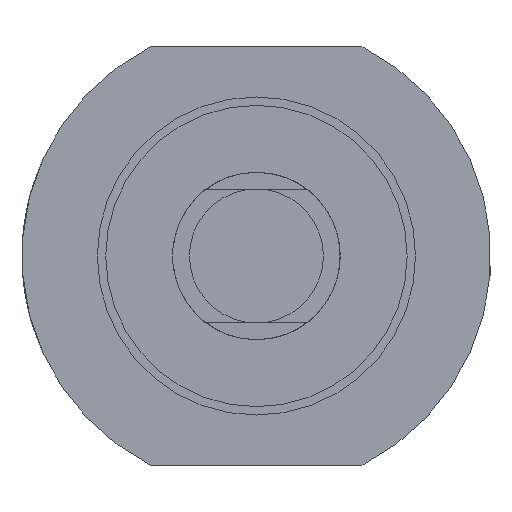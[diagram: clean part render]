
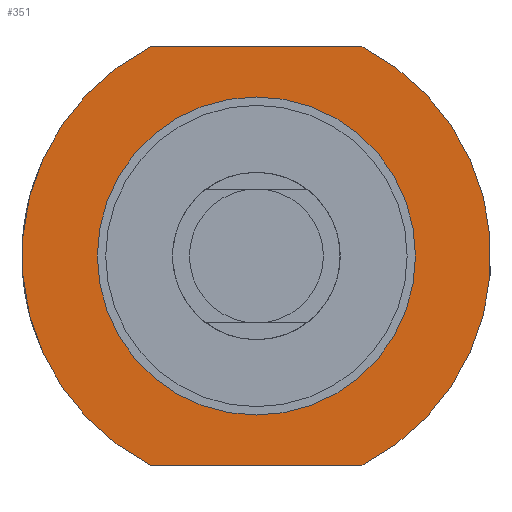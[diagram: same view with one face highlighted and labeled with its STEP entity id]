
A CAD part, left-side view. The second image highlights one B-rep face of the part: STEP entity #351.
In plain terms, the highlighted planar face has unit normal (-1, 0, 0).
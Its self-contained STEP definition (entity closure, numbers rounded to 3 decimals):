
#86 = CARTESIAN_POINT ( 'NONE',  ( 34., -6.305, 12.5 ) ) ;
#111 = AXIS2_PLACEMENT_3D ( 'NONE', #1638, #1112, #993 ) ;
#159 = VERTEX_POINT ( 'NONE', #1644 ) ;
#181 = CARTESIAN_POINT ( 'NONE',  ( 34., 0., -9.5 ) ) ;
#184 = EDGE_CURVE ( 'NONE', #363, #1159, #1427, .T. ) ;
#242 = CIRCLE ( 'NONE', #111, 14. ) ;
#249 = CIRCLE ( 'NONE', #938, 14. ) ;
#351 = ADVANCED_FACE ( 'NONE', ( #413, #537 ), #417, .F. ) ;
#360 = ORIENTED_EDGE ( 'NONE', *, *, #184, .F. ) ;
#363 = VERTEX_POINT ( 'NONE', #511 ) ;
#396 = EDGE_LOOP ( 'NONE', ( #360, #545 ) ) ;
#407 = DIRECTION ( 'NONE',  ( 0., 0., 1. ) ) ;
#413 = FACE_BOUND ( 'NONE', #396, .T. ) ;
#416 = CIRCLE ( 'NONE', #1613, 9.5 ) ;
#417 = PLANE ( 'NONE',  #895 ) ;
#448 = LINE ( 'NONE', #474, #973 ) ;
#474 = CARTESIAN_POINT ( 'NONE',  ( 34., 11.874, -12.5 ) ) ;
#511 = CARTESIAN_POINT ( 'NONE',  ( 34., 0., 9.5 ) ) ;
#517 = VERTEX_POINT ( 'NONE', #1045 ) ;
#537 = FACE_OUTER_BOUND ( 'NONE', #568, .T. ) ;
#545 = ORIENTED_EDGE ( 'NONE', *, *, #1147, .F. ) ;
#564 = CARTESIAN_POINT ( 'NONE',  ( 34., 11.874, 12.5 ) ) ;
#568 = EDGE_LOOP ( 'NONE', ( #1656, #1743, #1310, #1442 ) ) ;
#661 = CARTESIAN_POINT ( 'NONE',  ( 34., 0., 0. ) ) ;
#699 = CARTESIAN_POINT ( 'NONE',  ( 34., 0., -14. ) ) ;
#703 = VERTEX_POINT ( 'NONE', #86 ) ;
#772 = DIRECTION ( 'NONE',  ( -1., 0., 0. ) ) ;
#778 = CARTESIAN_POINT ( 'NONE',  ( 34., 0., 0. ) ) ;
#781 = EDGE_CURVE ( 'NONE', #1085, #517, #242, .T. ) ;
#804 = CARTESIAN_POINT ( 'NONE',  ( 34., 0., 0. ) ) ;
#862 = DIRECTION ( 'NONE',  ( 0., 0., 1. ) ) ;
#895 = AXIS2_PLACEMENT_3D ( 'NONE', #699, #1294, #1437 ) ;
#938 = AXIS2_PLACEMENT_3D ( 'NONE', #804, #772, #407 ) ;
#973 = VECTOR ( 'NONE', #1019, 1000. ) ;
#993 = DIRECTION ( 'NONE',  ( 0., 0., 1. ) ) ;
#1019 = DIRECTION ( 'NONE',  ( 0., 1., 0. ) ) ;
#1045 = CARTESIAN_POINT ( 'NONE',  ( 34., 6.305, -12.5 ) ) ;
#1085 = VERTEX_POINT ( 'NONE', #1393 ) ;
#1112 = DIRECTION ( 'NONE',  ( -1., 0., 0. ) ) ;
#1147 = EDGE_CURVE ( 'NONE', #1159, #363, #416, .T. ) ;
#1159 = VERTEX_POINT ( 'NONE', #181 ) ;
#1216 = AXIS2_PLACEMENT_3D ( 'NONE', #661, #1463, #1617 ) ;
#1236 = DIRECTION ( 'NONE',  ( -1., 0., 0. ) ) ;
#1294 = DIRECTION ( 'NONE',  ( 1., 0., 0. ) ) ;
#1310 = ORIENTED_EDGE ( 'NONE', *, *, #1646, .T. ) ;
#1393 = CARTESIAN_POINT ( 'NONE',  ( 34., 6.305, 12.5 ) ) ;
#1427 = CIRCLE ( 'NONE', #1216, 9.5 ) ;
#1437 = DIRECTION ( 'NONE',  ( 0., 0., -1. ) ) ;
#1440 = EDGE_CURVE ( 'NONE', #159, #517, #448, .T. ) ;
#1442 = ORIENTED_EDGE ( 'NONE', *, *, #1616, .F. ) ;
#1463 = DIRECTION ( 'NONE',  ( -1., 0., 0. ) ) ;
#1471 = LINE ( 'NONE', #564, #1670 ) ;
#1613 = AXIS2_PLACEMENT_3D ( 'NONE', #778, #1236, #862 ) ;
#1616 = EDGE_CURVE ( 'NONE', #1085, #703, #1471, .T. ) ;
#1617 = DIRECTION ( 'NONE',  ( 0., 0., 1. ) ) ;
#1638 = CARTESIAN_POINT ( 'NONE',  ( 34., 0., 0. ) ) ;
#1644 = CARTESIAN_POINT ( 'NONE',  ( 34., -6.305, -12.5 ) ) ;
#1646 = EDGE_CURVE ( 'NONE', #159, #703, #249, .T. ) ;
#1656 = ORIENTED_EDGE ( 'NONE', *, *, #781, .T. ) ;
#1670 = VECTOR ( 'NONE', #1679, 1000. ) ;
#1679 = DIRECTION ( 'NONE',  ( 0., -1., 0. ) ) ;
#1743 = ORIENTED_EDGE ( 'NONE', *, *, #1440, .F. ) ;
